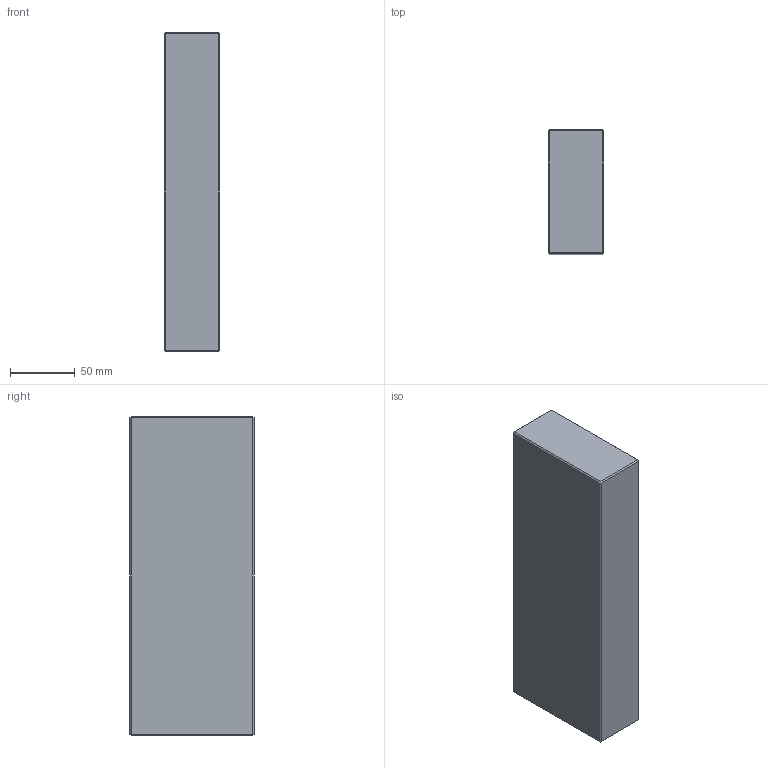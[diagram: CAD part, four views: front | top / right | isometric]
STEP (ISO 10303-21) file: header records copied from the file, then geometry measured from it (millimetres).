
FILE_DESCRIPTION (( 'STEP AP214' ), '1' );
FILE_NAME ('ESP-P-246X246x96.STEP', '2020-04-08T10:33:54', ( 'August' ), ( '' ), 'SwSTEP 2.0', 'SolidWorks 2018', '' );
FILE_SCHEMA (( 'AUTOMOTIVE_DESIGN' ));
Length unit declared in the file: millimetre
Products named in the file (1): ESP-P-246X246x96
Bounding box: 43 x 96 x 246 mm (x, y, z)
Volume: 1014723.3 mm3; surface area: 75738.9 mm2
Topology: 1 solids, 1 shells, 26 faces, 48 edges, 24 vertices
Faces by surface type: plane 26
Entity records: 634 total; most frequent: DIRECTION 102, CARTESIAN_POINT 99, ORIENTED_EDGE 96, EDGE_CURVE 48, VECTOR 48, LINE 48, AXIS2_PLACEMENT_3D 27, PLANE 26
